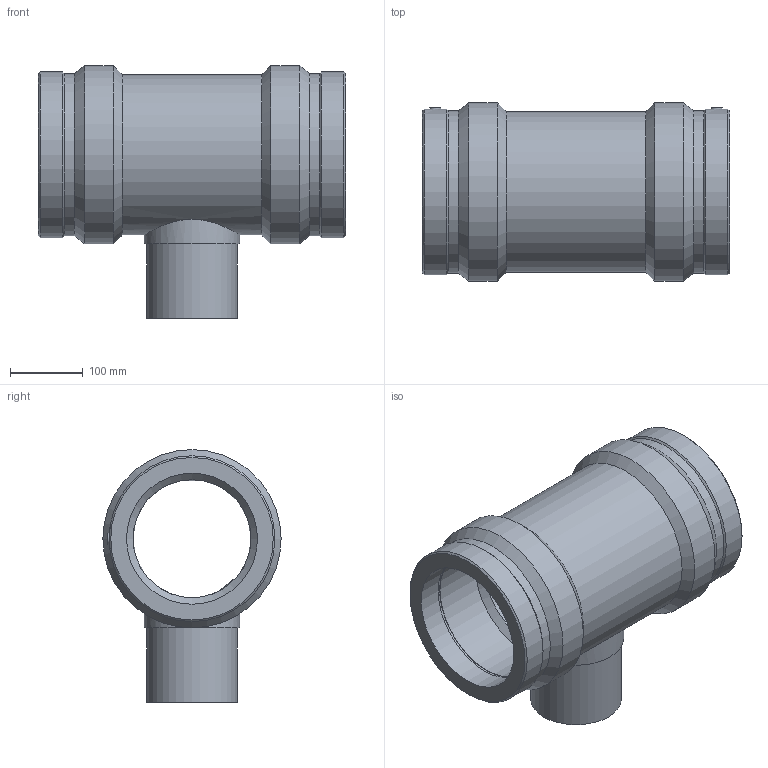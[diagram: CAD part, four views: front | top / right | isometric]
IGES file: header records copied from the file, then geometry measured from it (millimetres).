
Global section: file name: 491404180125.ipt; native system: Autodesk Inventor 2015; preprocessor: unknown; author: KIM; date: 20171106.093859; units: millimetre
Bounding box: 422 x 245 x 347.5 mm (x, y, z)
Volume: 7830416.6 mm3; surface area: 658933.6 mm2
Topology: 1 solids, 1 shells, 45 faces, 101 edges, 66 vertices
Faces by surface type: plane 12, revolution 12, cylinder 11, cone 10
Full cylindrical faces by diameter (mm): 4 x2, 125 x1, 131.25 x1, 220.5 x1, 223.293 x2, 227.85 x2, 245 x2
